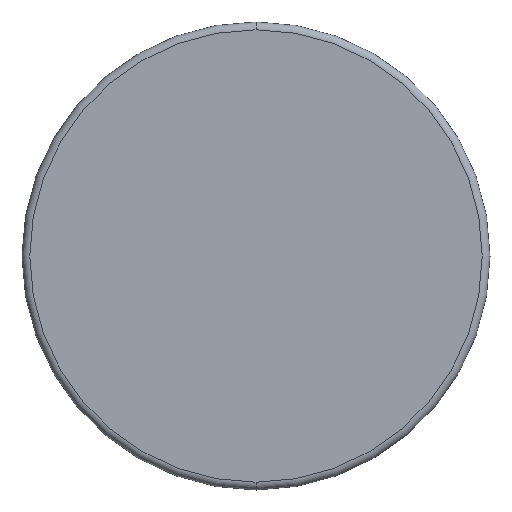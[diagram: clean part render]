
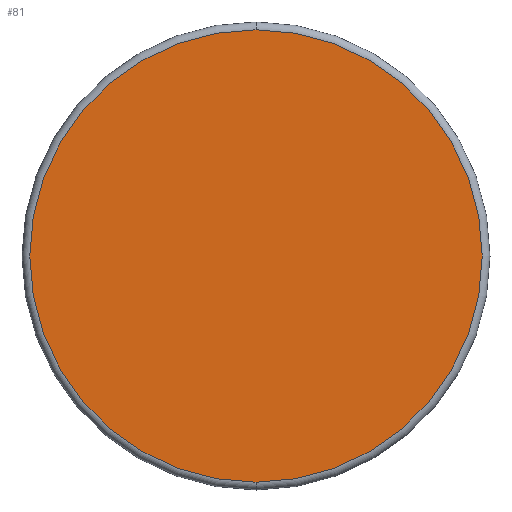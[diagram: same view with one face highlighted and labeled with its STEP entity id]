
A CAD part, front view. The second image highlights one B-rep face of the part: STEP entity #81.
In plain terms, the highlighted planar face has unit normal (0, -1, 0).
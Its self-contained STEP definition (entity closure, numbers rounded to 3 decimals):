
#2 = DIRECTION ( 'NONE',  ( 0., -1., 0. ) ) ;
#80 = CARTESIAN_POINT ( 'NONE',  ( 0., 0., -29. ) ) ;
#81 = ADVANCED_FACE ( 'NONE', ( #847 ), #417, .F. ) ;
#89 = CARTESIAN_POINT ( 'NONE',  ( 0., 0., 0. ) ) ;
#92 = EDGE_CURVE ( 'NONE', #850, #703, #547, .T. ) ;
#98 = AXIS2_PLACEMENT_3D ( 'NONE', #750, #587, #582 ) ;
#196 = ORIENTED_EDGE ( 'NONE', *, *, #92, .T. ) ;
#309 = CIRCLE ( 'NONE', #684, 29. ) ;
#311 = DIRECTION ( 'NONE',  ( 0., 0., -1. ) ) ;
#340 = DIRECTION ( 'NONE',  ( 0., 0., -1. ) ) ;
#367 = EDGE_LOOP ( 'NONE', ( #656, #196 ) ) ;
#417 = PLANE ( 'NONE',  #98 ) ;
#547 = CIRCLE ( 'NONE', #681, 29. ) ;
#582 = DIRECTION ( 'NONE',  ( 0., 0., 1. ) ) ;
#587 = DIRECTION ( 'NONE',  ( 0., 1., 0. ) ) ;
#656 = ORIENTED_EDGE ( 'NONE', *, *, #1002, .T. ) ;
#681 = AXIS2_PLACEMENT_3D ( 'NONE', #964, #892, #340 ) ;
#684 = AXIS2_PLACEMENT_3D ( 'NONE', #89, #2, #311 ) ;
#703 = VERTEX_POINT ( 'NONE', #80 ) ;
#750 = CARTESIAN_POINT ( 'NONE',  ( 0., 0., 0. ) ) ;
#847 = FACE_OUTER_BOUND ( 'NONE', #367, .T. ) ;
#850 = VERTEX_POINT ( 'NONE', #889 ) ;
#889 = CARTESIAN_POINT ( 'NONE',  ( 0., 0., 29. ) ) ;
#892 = DIRECTION ( 'NONE',  ( 0., -1., 0. ) ) ;
#964 = CARTESIAN_POINT ( 'NONE',  ( 0., 0., 0. ) ) ;
#1002 = EDGE_CURVE ( 'NONE', #703, #850, #309, .T. ) ;
